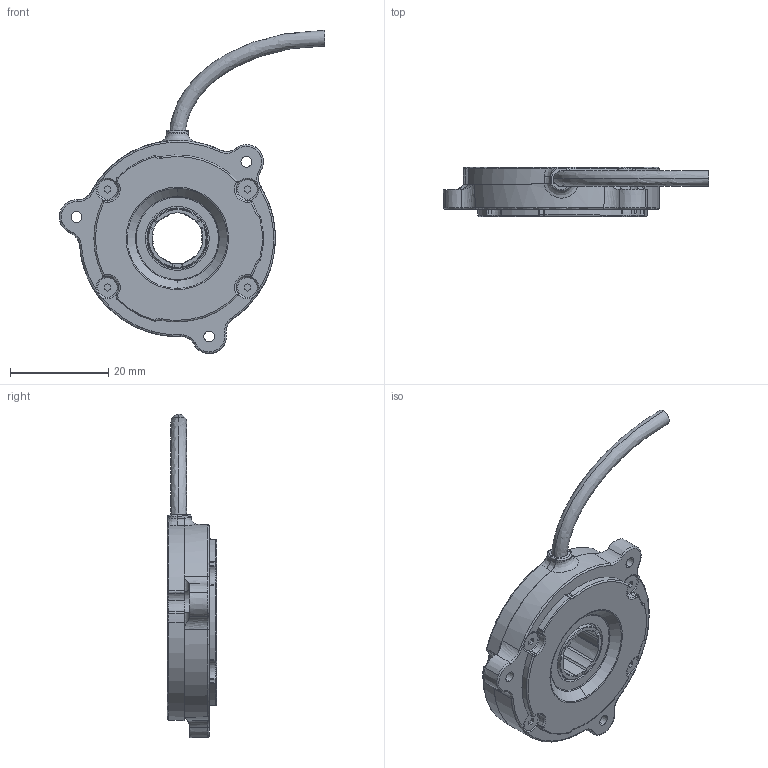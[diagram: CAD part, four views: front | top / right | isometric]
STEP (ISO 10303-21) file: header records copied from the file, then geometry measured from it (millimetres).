
FILE_DESCRIPTION (( 'STEP AP214' ), '1' );
FILE_NAME ('DS-40-QR Envelope.STEP', '2024-08-13T13:20:36', ( '' ), ( '' ), 'SwSTEP 2.0', 'SolidWorks 2022', '' );
FILE_SCHEMA (( 'AUTOMOTIVE_DESIGN' ));
Length unit declared in the file: millimetre
Products named in the file (10): MP-03741_79914   2  05; DS-40-QR Cable; MP-03629; PN-00150; MP-03740; MP-03620; DS-40-QR Core_Connector w protrusions; PN-00139; DS-40-QR Envelope; MP-03739
Assembly tree (12 placements, depth 3):
  DS-40-QR Envelope
    DS-40-QR Core_Connector w protrusions
      MP-03629
      MP-03620
      DS-40-QR Cable
      PN-00150
      PN-00139
    MP-03741_79914   2  05  x4
    MP-03739
    MP-03740
Bounding box: 54.04 x 10 x 65.85 mm (x, y, z)
Volume: 5348.2 mm3; surface area: 11331.5 mm2
Topology: 25 solids, 26 shells, 1859 faces, 4527 edges, 2783 vertices
Faces by surface type: plane 609, cone 440, torus 286, cylinder 281, bspline 206, sphere 37
Entity records: 57388 total; most frequent: CARTESIAN_POINT 19492, ORIENTED_EDGE 7718, DIRECTION 7188, EDGE_CURVE 3859, AXIS2_PLACEMENT_3D 2817, VERTEX_POINT 2435, EDGE_LOOP 1626, LINE 1554
